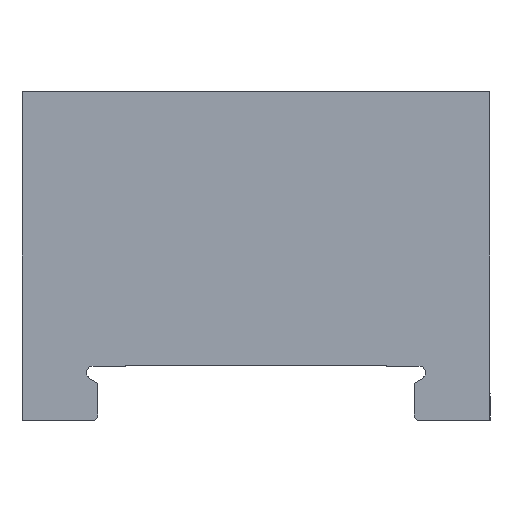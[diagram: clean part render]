
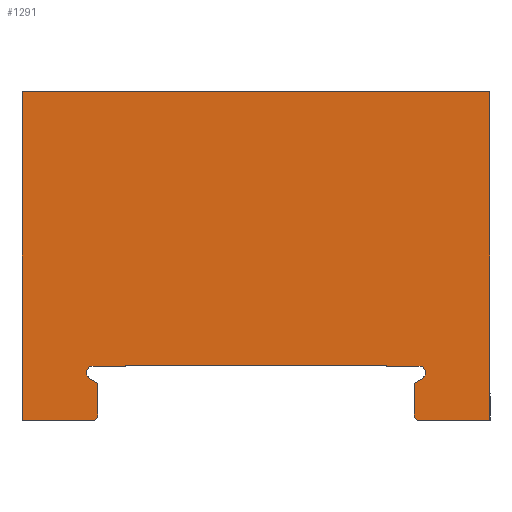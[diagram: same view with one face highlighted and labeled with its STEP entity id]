
A CAD part, front view. The second image highlights one B-rep face of the part: STEP entity #1291.
In plain terms, the highlighted planar face has unit normal (0, -1, 0).
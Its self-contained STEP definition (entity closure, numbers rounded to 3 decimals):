
#3 = AXIS2_PLACEMENT_3D ( 'NONE', #49, #689, #363 ) ;
#24 = VECTOR ( 'NONE', #751, 1000. ) ;
#41 = VERTEX_POINT ( 'NONE', #1066 ) ;
#49 = CARTESIAN_POINT ( 'NONE',  ( 26.795, -62.5, 7.8 ) ) ;
#58 = LINE ( 'NONE', #1411, #97 ) ;
#60 = DIRECTION ( 'NONE',  ( 0., 1., 0. ) ) ;
#70 = CARTESIAN_POINT ( 'NONE',  ( 38.5, -62.5, 54. ) ) ;
#95 = DIRECTION ( 'NONE',  ( -1., 0., 0. ) ) ;
#97 = VECTOR ( 'NONE', #929, 1000. ) ;
#103 = CARTESIAN_POINT ( 'NONE',  ( -26., -62.5, -7. ) ) ;
#122 = ORIENTED_EDGE ( 'NONE', *, *, #759, .F. ) ;
#129 = LINE ( 'NONE', #1210, #1283 ) ;
#131 = VERTEX_POINT ( 'NONE', #853 ) ;
#137 = VERTEX_POINT ( 'NONE', #1190 ) ;
#152 = EDGE_CURVE ( 'NONE', #338, #527, #616, .T. ) ;
#157 = ORIENTED_EDGE ( 'NONE', *, *, #1416, .F. ) ;
#160 = EDGE_CURVE ( 'NONE', #299, #1397, #824, .T. ) ;
#187 = ORIENTED_EDGE ( 'NONE', *, *, #998, .T. ) ;
#188 = VERTEX_POINT ( 'NONE', #662 ) ;
#195 = EDGE_CURVE ( 'NONE', #780, #651, #633, .T. ) ;
#214 = VERTEX_POINT ( 'NONE', #1108 ) ;
#233 = DIRECTION ( 'NONE',  ( 0.866, 0., 0.5 ) ) ;
#239 = DIRECTION ( 'NONE',  ( 0.866, 0., -0.5 ) ) ;
#240 = ORIENTED_EDGE ( 'NONE', *, *, #152, .F. ) ;
#272 = CARTESIAN_POINT ( 'NONE',  ( 38.5, -62.5, 54. ) ) ;
#274 = ORIENTED_EDGE ( 'NONE', *, *, #434, .F. ) ;
#299 = VERTEX_POINT ( 'NONE', #1448 ) ;
#309 = CARTESIAN_POINT ( 'NONE',  ( -38.5, -62.5, 54. ) ) ;
#310 = VERTEX_POINT ( 'NONE', #446 ) ;
#320 = CARTESIAN_POINT ( 'NONE',  ( 26., -62.5, -7. ) ) ;
#338 = VERTEX_POINT ( 'NONE', #1242 ) ;
#340 = VECTOR ( 'NONE', #1348, 1000. ) ;
#362 = LINE ( 'NONE', #70, #398 ) ;
#363 = DIRECTION ( 'NONE',  ( 0., 0., 1. ) ) ;
#398 = VECTOR ( 'NONE', #835, 1000. ) ;
#413 = VECTOR ( 'NONE', #539, 1000. ) ;
#421 = EDGE_CURVE ( 'NONE', #1091, #131, #630, .T. ) ;
#434 = EDGE_CURVE ( 'NONE', #1394, #780, #1183, .T. ) ;
#437 = CARTESIAN_POINT ( 'NONE',  ( 26.5, -62.5, 0. ) ) ;
#446 = CARTESIAN_POINT ( 'NONE',  ( 38.5, -62.5, 0. ) ) ;
#467 = CARTESIAN_POINT ( 'NONE',  ( -38.5, -62.5, 0. ) ) ;
#500 = ORIENTED_EDGE ( 'NONE', *, *, #785, .T. ) ;
#502 = EDGE_CURVE ( 'NONE', #338, #959, #612, .T. ) ;
#512 = CARTESIAN_POINT ( 'NONE',  ( -38.5, -62.5, 54. ) ) ;
#522 = VECTOR ( 'NONE', #233, 1000. ) ;
#527 = VERTEX_POINT ( 'NONE', #272 ) ;
#534 = EDGE_CURVE ( 'NONE', #715, #41, #1036, .T. ) ;
#535 = VECTOR ( 'NONE', #1211, 1000. ) ;
#539 = DIRECTION ( 'NONE',  ( 0., 0., 1. ) ) ;
#545 = ORIENTED_EDGE ( 'NONE', *, *, #534, .F. ) ;
#553 = LINE ( 'NONE', #786, #340 ) ;
#565 = ORIENTED_EDGE ( 'NONE', *, *, #502, .T. ) ;
#578 = VECTOR ( 'NONE', #712, 1000. ) ;
#603 = ORIENTED_EDGE ( 'NONE', *, *, #421, .F. ) ;
#612 = LINE ( 'NONE', #1380, #578 ) ;
#616 = LINE ( 'NONE', #309, #1346 ) ;
#630 = LINE ( 'NONE', #1136, #522 ) ;
#631 = PLANE ( 'NONE',  #1029 ) ;
#633 = LINE ( 'NONE', #103, #1012 ) ;
#639 = EDGE_CURVE ( 'NONE', #527, #310, #362, .T. ) ;
#651 = VERTEX_POINT ( 'NONE', #1401 ) ;
#653 = DIRECTION ( 'NONE',  ( 0., 0., 1. ) ) ;
#659 = CIRCLE ( 'NONE', #1438, 1.1 ) ;
#662 = CARTESIAN_POINT ( 'NONE',  ( -21.5, -62.5, 9. ) ) ;
#673 = LINE ( 'NONE', #320, #413 ) ;
#680 = ORIENTED_EDGE ( 'NONE', *, *, #195, .F. ) ;
#689 = DIRECTION ( 'NONE',  ( 0., -1., 0. ) ) ;
#708 = VECTOR ( 'NONE', #239, 1000. ) ;
#712 = DIRECTION ( 'NONE',  ( 0., 0., -1. ) ) ;
#715 = VERTEX_POINT ( 'NONE', #976 ) ;
#718 = CIRCLE ( 'NONE', #3, 1.1 ) ;
#735 = LINE ( 'NONE', #1215, #1216 ) ;
#739 = EDGE_CURVE ( 'NONE', #832, #1394, #659, .T. ) ;
#751 = DIRECTION ( 'NONE',  ( 0.707, 0., 0.707 ) ) ;
#759 = EDGE_CURVE ( 'NONE', #41, #188, #735, .T. ) ;
#771 = LINE ( 'NONE', #1420, #24 ) ;
#773 = ORIENTED_EDGE ( 'NONE', *, *, #739, .F. ) ;
#780 = VERTEX_POINT ( 'NONE', #971 ) ;
#785 = EDGE_CURVE ( 'NONE', #137, #651, #771, .T. ) ;
#786 = CARTESIAN_POINT ( 'NONE',  ( -38.5, -62.5, 0. ) ) ;
#791 = EDGE_LOOP ( 'NONE', ( #157, #987, #972, #1147, #240, #565, #187, #500, #680, #274, #773, #950, #1120, #122, #545, #1020, #1202, #603 ) ) ;
#797 = EDGE_CURVE ( 'NONE', #214, #715, #129, .T. ) ;
#805 = CARTESIAN_POINT ( 'NONE',  ( 21.5, -62.5, 8.9 ) ) ;
#820 = EDGE_CURVE ( 'NONE', #1187, #832, #870, .T. ) ;
#824 = LINE ( 'NONE', #437, #535 ) ;
#832 = VERTEX_POINT ( 'NONE', #1437 ) ;
#835 = DIRECTION ( 'NONE',  ( 0., 0., -1. ) ) ;
#836 = DIRECTION ( 'NONE',  ( 0., 0., 1. ) ) ;
#838 = CARTESIAN_POINT ( 'NONE',  ( -27.345, -62.5, 6.847 ) ) ;
#850 = DIRECTION ( 'NONE',  ( -1., 0., 0. ) ) ;
#853 = CARTESIAN_POINT ( 'NONE',  ( 27.345, -62.5, 6.847 ) ) ;
#859 = CARTESIAN_POINT ( 'NONE',  ( -21.5, -62.5, 8.9 ) ) ;
#870 = LINE ( 'NONE', #859, #1441 ) ;
#872 = DIRECTION ( 'NONE',  ( 0., 0., -1. ) ) ;
#892 = CARTESIAN_POINT ( 'NONE',  ( -26., -62.5, 6.071 ) ) ;
#925 = DIRECTION ( 'NONE',  ( 0., 0., 1. ) ) ;
#929 = DIRECTION ( 'NONE',  ( 0., 0., -1. ) ) ;
#950 = ORIENTED_EDGE ( 'NONE', *, *, #820, .F. ) ;
#959 = VERTEX_POINT ( 'NONE', #1352 ) ;
#964 = DIRECTION ( 'NONE',  ( 1., 0., 0. ) ) ;
#971 = CARTESIAN_POINT ( 'NONE',  ( -26., -62.5, 6.071 ) ) ;
#972 = ORIENTED_EDGE ( 'NONE', *, *, #1048, .T. ) ;
#976 = CARTESIAN_POINT ( 'NONE',  ( 21.5, -62.5, 8.9 ) ) ;
#987 = ORIENTED_EDGE ( 'NONE', *, *, #160, .T. ) ;
#998 = EDGE_CURVE ( 'NONE', #959, #137, #1248, .T. ) ;
#1012 = VECTOR ( 'NONE', #872, 1000. ) ;
#1020 = ORIENTED_EDGE ( 'NONE', *, *, #797, .F. ) ;
#1029 = AXIS2_PLACEMENT_3D ( 'NONE', #512, #60, #836 ) ;
#1036 = LINE ( 'NONE', #805, #1124 ) ;
#1048 = EDGE_CURVE ( 'NONE', #1397, #310, #553, .T. ) ;
#1066 = CARTESIAN_POINT ( 'NONE',  ( 21.5, -62.5, 9. ) ) ;
#1084 = VECTOR ( 'NONE', #1358, 1000. ) ;
#1091 = VERTEX_POINT ( 'NONE', #1232 ) ;
#1095 = DIRECTION ( 'NONE',  ( -1., 0., 0. ) ) ;
#1108 = CARTESIAN_POINT ( 'NONE',  ( 26.795, -62.5, 8.9 ) ) ;
#1120 = ORIENTED_EDGE ( 'NONE', *, *, #1383, .F. ) ;
#1124 = VECTOR ( 'NONE', #925, 1000. ) ;
#1136 = CARTESIAN_POINT ( 'NONE',  ( 26., -62.5, 6.071 ) ) ;
#1147 = ORIENTED_EDGE ( 'NONE', *, *, #639, .F. ) ;
#1177 = FACE_OUTER_BOUND ( 'NONE', #791, .T. ) ;
#1183 = LINE ( 'NONE', #892, #708 ) ;
#1187 = VERTEX_POINT ( 'NONE', #1370 ) ;
#1190 = CARTESIAN_POINT ( 'NONE',  ( -26.5, -62.5, 0. ) ) ;
#1193 = EDGE_CURVE ( 'NONE', #131, #214, #718, .T. ) ;
#1199 = CARTESIAN_POINT ( 'NONE',  ( -26.795, -62.5, 7.8 ) ) ;
#1202 = ORIENTED_EDGE ( 'NONE', *, *, #1193, .F. ) ;
#1210 = CARTESIAN_POINT ( 'NONE',  ( 26.795, -62.5, 8.9 ) ) ;
#1211 = DIRECTION ( 'NONE',  ( 0.707, 0., -0.707 ) ) ;
#1215 = CARTESIAN_POINT ( 'NONE',  ( -21.5, -62.5, 9. ) ) ;
#1216 = VECTOR ( 'NONE', #850, 1000. ) ;
#1232 = CARTESIAN_POINT ( 'NONE',  ( 26., -62.5, 6.071 ) ) ;
#1242 = CARTESIAN_POINT ( 'NONE',  ( -38.5, -62.5, 54. ) ) ;
#1248 = LINE ( 'NONE', #467, #1084 ) ;
#1283 = VECTOR ( 'NONE', #95, 1000. ) ;
#1291 = ADVANCED_FACE ( 'NONE', ( #1177 ), #631, .F. ) ;
#1318 = CARTESIAN_POINT ( 'NONE',  ( 26.5, -62.5, 0. ) ) ;
#1319 = DIRECTION ( 'NONE',  ( 0., -1., 0. ) ) ;
#1346 = VECTOR ( 'NONE', #964, 1000. ) ;
#1348 = DIRECTION ( 'NONE',  ( 1., 0., 0. ) ) ;
#1352 = CARTESIAN_POINT ( 'NONE',  ( -38.5, -62.5, 0. ) ) ;
#1358 = DIRECTION ( 'NONE',  ( 1., 0., 0. ) ) ;
#1370 = CARTESIAN_POINT ( 'NONE',  ( -21.5, -62.5, 8.9 ) ) ;
#1380 = CARTESIAN_POINT ( 'NONE',  ( -38.5, -62.5, 54. ) ) ;
#1383 = EDGE_CURVE ( 'NONE', #188, #1187, #58, .T. ) ;
#1394 = VERTEX_POINT ( 'NONE', #838 ) ;
#1397 = VERTEX_POINT ( 'NONE', #1318 ) ;
#1401 = CARTESIAN_POINT ( 'NONE',  ( -26., -62.5, 0.5 ) ) ;
#1411 = CARTESIAN_POINT ( 'NONE',  ( -21.5, -62.5, 8.9 ) ) ;
#1416 = EDGE_CURVE ( 'NONE', #299, #1091, #673, .T. ) ;
#1420 = CARTESIAN_POINT ( 'NONE',  ( -26.5, -62.5, 0. ) ) ;
#1437 = CARTESIAN_POINT ( 'NONE',  ( -26.795, -62.5, 8.9 ) ) ;
#1438 = AXIS2_PLACEMENT_3D ( 'NONE', #1199, #1319, #653 ) ;
#1441 = VECTOR ( 'NONE', #1095, 1000. ) ;
#1448 = CARTESIAN_POINT ( 'NONE',  ( 26., -62.5, 0.5 ) ) ;
